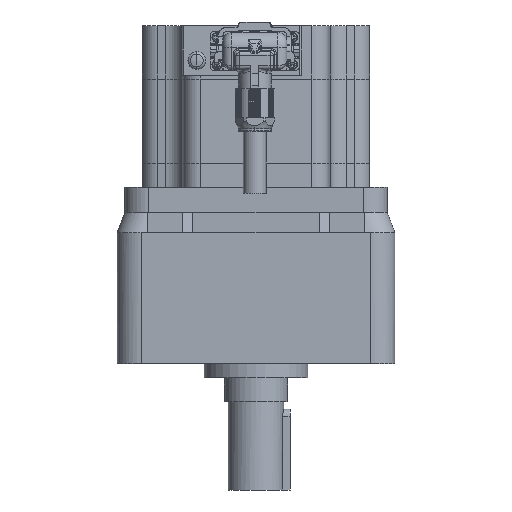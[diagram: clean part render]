
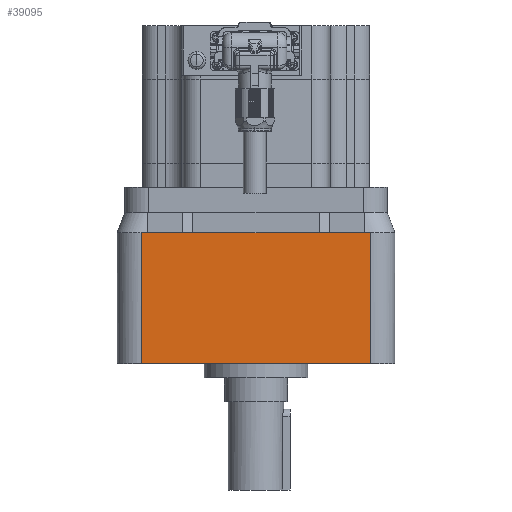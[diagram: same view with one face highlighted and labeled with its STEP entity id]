
A CAD part, front view. The second image highlights one B-rep face of the part: STEP entity #39095.
In plain terms, the highlighted planar face has unit normal (0, -1, 0).
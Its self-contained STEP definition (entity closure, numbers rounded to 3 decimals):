
#123 = CARTESIAN_POINT ( 'NONE',  ( -55., -55., -8. ) ) ;
#382 = EDGE_CURVE ( 'NONE', #15485, #31531, #28857, .T. ) ;
#715 = ORIENTED_EDGE ( 'NONE', *, *, #26225, .T. ) ;
#2464 = VECTOR ( 'NONE', #26219, 1000. ) ;
#2474 = CARTESIAN_POINT ( 'NONE',  ( -400000., -55., -60. ) ) ;
#2542 = FACE_OUTER_BOUND ( 'NONE', #25777, .T. ) ;
#2863 = VECTOR ( 'NONE', #34775, 1000. ) ;
#3184 = PLANE ( 'NONE',  #9756 ) ;
#3357 = CARTESIAN_POINT ( 'NONE',  ( 29., -55., -8. ) ) ;
#3519 = LINE ( 'NONE', #2474, #2464 ) ;
#3847 = ORIENTED_EDGE ( 'NONE', *, *, #17668, .F. ) ;
#4621 = CARTESIAN_POINT ( 'NONE',  ( 29., -55., -8. ) ) ;
#4785 = VECTOR ( 'NONE', #38261, 1000. ) ;
#5502 = LINE ( 'NONE', #23266, #7645 ) ;
#6090 = ORIENTED_EDGE ( 'NONE', *, *, #382, .T. ) ;
#7386 = LINE ( 'NONE', #123, #34448 ) ;
#7625 = CARTESIAN_POINT ( 'NONE',  ( 44.667, -55., -8. ) ) ;
#7645 = VECTOR ( 'NONE', #33430, 1000. ) ;
#9756 = AXIS2_PLACEMENT_3D ( 'NONE', #13453, #43953, #23696 ) ;
#10275 = CARTESIAN_POINT ( 'NONE',  ( -25., -55., -8. ) ) ;
#10634 = EDGE_CURVE ( 'NONE', #40673, #40075, #24200, .T. ) ;
#10857 = LINE ( 'NONE', #12423, #27825 ) ;
#11063 = CARTESIAN_POINT ( 'NONE',  ( 43.834, -55., -8. ) ) ;
#12423 = CARTESIAN_POINT ( 'NONE',  ( 45.5, -55., -215.563 ) ) ;
#13116 = VERTEX_POINT ( 'NONE', #23969 ) ;
#13387 = VERTEX_POINT ( 'NONE', #10275 ) ;
#13453 = CARTESIAN_POINT ( 'NONE',  ( -400000., -55., -215.563 ) ) ;
#14063 = CARTESIAN_POINT ( 'NONE',  ( -29., -55., -8. ) ) ;
#14225 = CARTESIAN_POINT ( 'NONE',  ( -25., -55., -8. ) ) ;
#14490 = CARTESIAN_POINT ( 'NONE',  ( 45.5, -55., -8. ) ) ;
#14640 = VERTEX_POINT ( 'NONE', #40651 ) ;
#15485 = VERTEX_POINT ( 'NONE', #39108 ) ;
#15856 = DIRECTION ( 'NONE',  ( 0., 0., 1. ) ) ;
#16181 = CARTESIAN_POINT ( 'NONE',  ( 43., -55., -8. ) ) ;
#16693 = VERTEX_POINT ( 'NONE', #35418 ) ;
#16895 = EDGE_CURVE ( 'NONE', #16693, #39122, #32200, .T. ) ;
#17030 = CARTESIAN_POINT ( 'NONE',  ( -43.834, -55., -8. ) ) ;
#17258 = B_SPLINE_CURVE_WITH_KNOTS ( 'NONE', 3,
 ( #43944, #37258, #17030, #40695 ),
 .UNSPECIFIED., .F., .F.,
 ( 4, 4 ),
 ( 0., 0.028 ),
 .UNSPECIFIED. ) ;
#17668 = EDGE_CURVE ( 'NONE', #14640, #13387, #17862, .T. ) ;
#17862 = B_SPLINE_CURVE_WITH_KNOTS ( 'NONE', 3,
 ( #14063, #31054, #34479, #14225 ),
 .UNSPECIFIED., .F., .F.,
 ( 4, 4 ),
 ( 0.182, 0.226 ),
 .UNSPECIFIED. ) ;
#17938 = CARTESIAN_POINT ( 'NONE',  ( -45.5, -55., -215.563 ) ) ;
#18044 = CARTESIAN_POINT ( 'NONE',  ( -55., -55., -8. ) ) ;
#19896 = EDGE_CURVE ( 'NONE', #37038, #14640, #7386, .T. ) ;
#20583 = ORIENTED_EDGE ( 'NONE', *, *, #30166, .F. ) ;
#20624 = ORIENTED_EDGE ( 'NONE', *, *, #10634, .F. ) ;
#22763 = ORIENTED_EDGE ( 'NONE', *, *, #19896, .F. ) ;
#23266 = CARTESIAN_POINT ( 'NONE',  ( -55., -55., -8. ) ) ;
#23696 = DIRECTION ( 'NONE',  ( 0., 0., 1. ) ) ;
#23732 = CARTESIAN_POINT ( 'NONE',  ( 27.667, -55., -8. ) ) ;
#23969 = CARTESIAN_POINT ( 'NONE',  ( 45.5, -55., -60. ) ) ;
#24200 = B_SPLINE_CURVE_WITH_KNOTS ( 'NONE', 3,
 ( #34758, #11063, #7625, #14490 ),
 .UNSPECIFIED., .F., .F.,
 ( 4, 4 ),
 ( 0.972, 1. ),
 .UNSPECIFIED. ) ;
#24698 = EDGE_CURVE ( 'NONE', #31531, #13116, #3519, .T. ) ;
#25777 = EDGE_LOOP ( 'NONE', ( #43216, #715, #20624, #39571, #32541, #20583, #3847, #22763, #41403, #6090 ) ) ;
#26219 = DIRECTION ( 'NONE',  ( 1., 0., 0. ) ) ;
#26225 = EDGE_CURVE ( 'NONE', #13116, #40075, #10857, .T. ) ;
#26378 = EDGE_CURVE ( 'NONE', #39122, #40673, #5502, .T. ) ;
#26930 = CARTESIAN_POINT ( 'NONE',  ( -45.5, -55., -60. ) ) ;
#27825 = VECTOR ( 'NONE', #15856, 1000. ) ;
#28857 = LINE ( 'NONE', #17938, #2863 ) ;
#29966 = EDGE_CURVE ( 'NONE', #15485, #37038, #17258, .T. ) ;
#30166 = EDGE_CURVE ( 'NONE', #13387, #16693, #30793, .T. ) ;
#30793 = LINE ( 'NONE', #18044, #4785 ) ;
#31054 = CARTESIAN_POINT ( 'NONE',  ( -27.667, -55., -8. ) ) ;
#31531 = VERTEX_POINT ( 'NONE', #26930 ) ;
#32200 = B_SPLINE_CURVE_WITH_KNOTS ( 'NONE', 3,
 ( #33756, #37158, #23732, #3357 ),
 .UNSPECIFIED., .F., .F.,
 ( 4, 4 ),
 ( 0.774, 0.818 ),
 .UNSPECIFIED. ) ;
#32541 = ORIENTED_EDGE ( 'NONE', *, *, #16895, .F. ) ;
#33331 = CARTESIAN_POINT ( 'NONE',  ( 45.5, -55., -8. ) ) ;
#33430 = DIRECTION ( 'NONE',  ( 1., 0., 0. ) ) ;
#33756 = CARTESIAN_POINT ( 'NONE',  ( 25., -55., -8. ) ) ;
#34448 = VECTOR ( 'NONE', #40785, 1000. ) ;
#34479 = CARTESIAN_POINT ( 'NONE',  ( -26.334, -55., -8. ) ) ;
#34758 = CARTESIAN_POINT ( 'NONE',  ( 43., -55., -8. ) ) ;
#34775 = DIRECTION ( 'NONE',  ( 0., 0., -1. ) ) ;
#35418 = CARTESIAN_POINT ( 'NONE',  ( 25., -55., -8. ) ) ;
#37038 = VERTEX_POINT ( 'NONE', #39585 ) ;
#37158 = CARTESIAN_POINT ( 'NONE',  ( 26.334, -55., -8. ) ) ;
#37258 = CARTESIAN_POINT ( 'NONE',  ( -44.667, -55., -8. ) ) ;
#38261 = DIRECTION ( 'NONE',  ( 1., 0., 0. ) ) ;
#39095 = ADVANCED_FACE ( 'NONE', ( #2542 ), #3184, .F. ) ;
#39108 = CARTESIAN_POINT ( 'NONE',  ( -45.5, -55., -8. ) ) ;
#39122 = VERTEX_POINT ( 'NONE', #4621 ) ;
#39571 = ORIENTED_EDGE ( 'NONE', *, *, #26378, .F. ) ;
#39585 = CARTESIAN_POINT ( 'NONE',  ( -43., -55., -8. ) ) ;
#40075 = VERTEX_POINT ( 'NONE', #33331 ) ;
#40651 = CARTESIAN_POINT ( 'NONE',  ( -29., -55., -8. ) ) ;
#40673 = VERTEX_POINT ( 'NONE', #16181 ) ;
#40695 = CARTESIAN_POINT ( 'NONE',  ( -43., -55., -8. ) ) ;
#40785 = DIRECTION ( 'NONE',  ( 1., 0., 0. ) ) ;
#41403 = ORIENTED_EDGE ( 'NONE', *, *, #29966, .F. ) ;
#43216 = ORIENTED_EDGE ( 'NONE', *, *, #24698, .T. ) ;
#43944 = CARTESIAN_POINT ( 'NONE',  ( -45.5, -55., -8. ) ) ;
#43953 = DIRECTION ( 'NONE',  ( 0., 1., 0. ) ) ;
